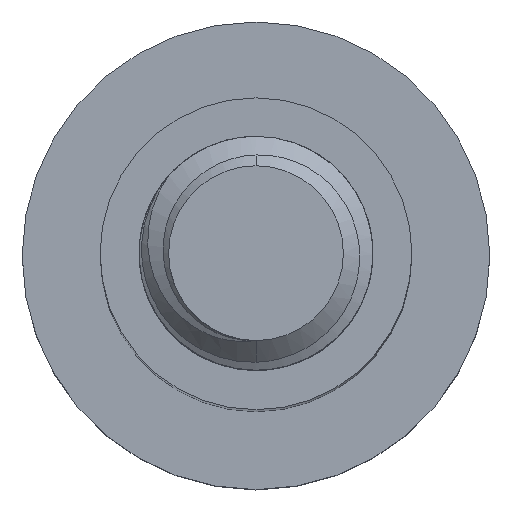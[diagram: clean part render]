
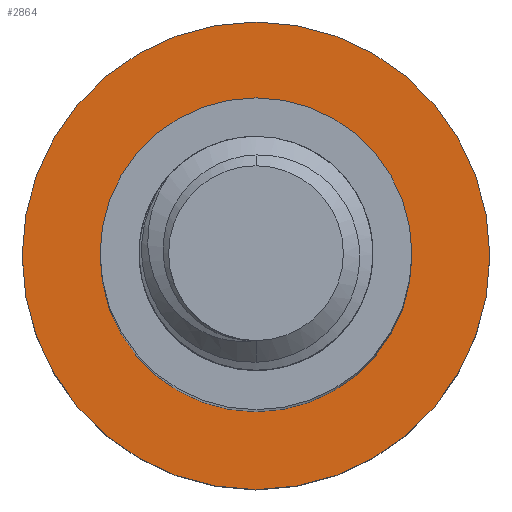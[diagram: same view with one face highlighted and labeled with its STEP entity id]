
A CAD part, top view. The second image highlights one B-rep face of the part: STEP entity #2864.
In plain terms, the highlighted planar face has unit normal (0, 0, 1).
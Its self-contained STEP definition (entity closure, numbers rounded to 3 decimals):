
#29 = AXIS2_PLACEMENT_3D ( 'NONE', #1124, #1557, #3174 ) ;
#482 = CARTESIAN_POINT ( 'NONE',  ( 0., 0., -60. ) ) ;
#657 = EDGE_LOOP ( 'NONE', ( #796, #2677 ) ) ;
#660 = DIRECTION ( 'NONE',  ( 0., 0., -1. ) ) ;
#683 = VERTEX_POINT ( 'NONE', #4064 ) ;
#796 = ORIENTED_EDGE ( 'NONE', *, *, #1784, .F. ) ;
#896 = AXIS2_PLACEMENT_3D ( 'NONE', #957, #4590, #2995 ) ;
#957 = CARTESIAN_POINT ( 'NONE',  ( 0., 0., -60. ) ) ;
#1055 = CARTESIAN_POINT ( 'NONE',  ( 0., 0., -60. ) ) ;
#1061 = EDGE_CURVE ( 'NONE', #2681, #683, #4705, .T. ) ;
#1073 = CARTESIAN_POINT ( 'NONE',  ( -8., 0., -60. ) ) ;
#1124 = CARTESIAN_POINT ( 'NONE',  ( 0., 0., -60. ) ) ;
#1230 = ORIENTED_EDGE ( 'NONE', *, *, #3689, .T. ) ;
#1313 = VERTEX_POINT ( 'NONE', #2781 ) ;
#1385 = DIRECTION ( 'NONE',  ( -1., 0., 0. ) ) ;
#1557 = DIRECTION ( 'NONE',  ( 0., 0., -1. ) ) ;
#1579 = CARTESIAN_POINT ( 'NONE',  ( 0., 0., -60. ) ) ;
#1773 = FACE_BOUND ( 'NONE', #3293, .T. ) ;
#1784 = EDGE_CURVE ( 'NONE', #683, #2681, #2369, .T. ) ;
#1851 = VERTEX_POINT ( 'NONE', #1073 ) ;
#2035 = AXIS2_PLACEMENT_3D ( 'NONE', #1055, #660, #2281 ) ;
#2248 = ORIENTED_EDGE ( 'NONE', *, *, #5005, .T. ) ;
#2281 = DIRECTION ( 'NONE',  ( -1., 0., 0. ) ) ;
#2369 = CIRCLE ( 'NONE', #29, 12. ) ;
#2677 = ORIENTED_EDGE ( 'NONE', *, *, #1061, .F. ) ;
#2681 = VERTEX_POINT ( 'NONE', #4543 ) ;
#2781 = CARTESIAN_POINT ( 'NONE',  ( 8., 0., -60. ) ) ;
#2864 = ADVANCED_FACE ( 'NONE', ( #1773, #4095 ), #3390, .F. ) ;
#2995 = DIRECTION ( 'NONE',  ( -1., 0., 0. ) ) ;
#3169 = DIRECTION ( 'NONE',  ( -1., 0., 0. ) ) ;
#3174 = DIRECTION ( 'NONE',  ( -1., 0., 0. ) ) ;
#3293 = EDGE_LOOP ( 'NONE', ( #2248, #1230 ) ) ;
#3390 = PLANE ( 'NONE',  #4473 ) ;
#3620 = AXIS2_PLACEMENT_3D ( 'NONE', #1579, #5125, #3169 ) ;
#3689 = EDGE_CURVE ( 'NONE', #1313, #1851, #4896, .T. ) ;
#4064 = CARTESIAN_POINT ( 'NONE',  ( 12., 0., -60. ) ) ;
#4095 = FACE_OUTER_BOUND ( 'NONE', #657, .T. ) ;
#4473 = AXIS2_PLACEMENT_3D ( 'NONE', #482, #4516, #1385 ) ;
#4516 = DIRECTION ( 'NONE',  ( 0., 0., -1. ) ) ;
#4543 = CARTESIAN_POINT ( 'NONE',  ( -12., 0., -60. ) ) ;
#4590 = DIRECTION ( 'NONE',  ( 0., 0., -1. ) ) ;
#4705 = CIRCLE ( 'NONE', #3620, 12. ) ;
#4896 = CIRCLE ( 'NONE', #2035, 8. ) ;
#5005 = EDGE_CURVE ( 'NONE', #1851, #1313, #5146, .T. ) ;
#5125 = DIRECTION ( 'NONE',  ( 0., 0., -1. ) ) ;
#5146 = CIRCLE ( 'NONE', #896, 8. ) ;
